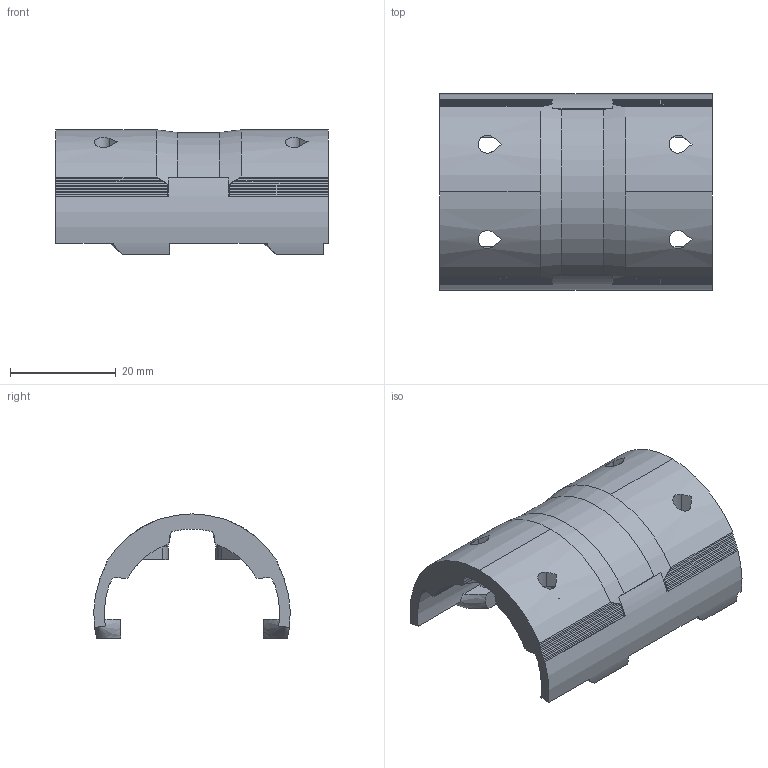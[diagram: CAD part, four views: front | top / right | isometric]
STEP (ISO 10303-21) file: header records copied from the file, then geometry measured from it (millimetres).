
FILE_DESCRIPTION(('SkyG Speed 90B - revision C6B-24 - 2026-10-17','NP-nut-frame'),'2;1');
FILE_NAME('NP-nut-frame_C6B-24','2026-10-17T21:12:52',('Author'),( 'Open CASCADE'),'Open CASCADE STEP processor 7.9','Open CASCADE 7.9' ,'Unknown');
FILE_SCHEMA(('AUTOMOTIVE_DESIGN { 1 0 10303 214 1 1 1 1 }'));
Length unit declared in the file: millimetre
Products named in the file (1): NP-nut-frame C6B-24
Bounding box: 51.5 x 37.09 x 23.45 mm (x, y, z)
Volume: 10417.1 mm3; surface area: 7908.2 mm2
Topology: 1 solids, 1 shells, 451 faces, 1365 edges, 912 vertices
Faces by surface type: plane 416, cylinder 21, cone 10, bspline 4
Entity records: 35126 total; most frequent: CARTESIAN_POINT 9335, DIRECTION 4391, ORIENTED_EDGE 2730, PCURVE 2730, DEFINITIONAL_REPRESENTATION 2730, LINE 2637, VECTOR 2637, EDGE_CURVE 1365
